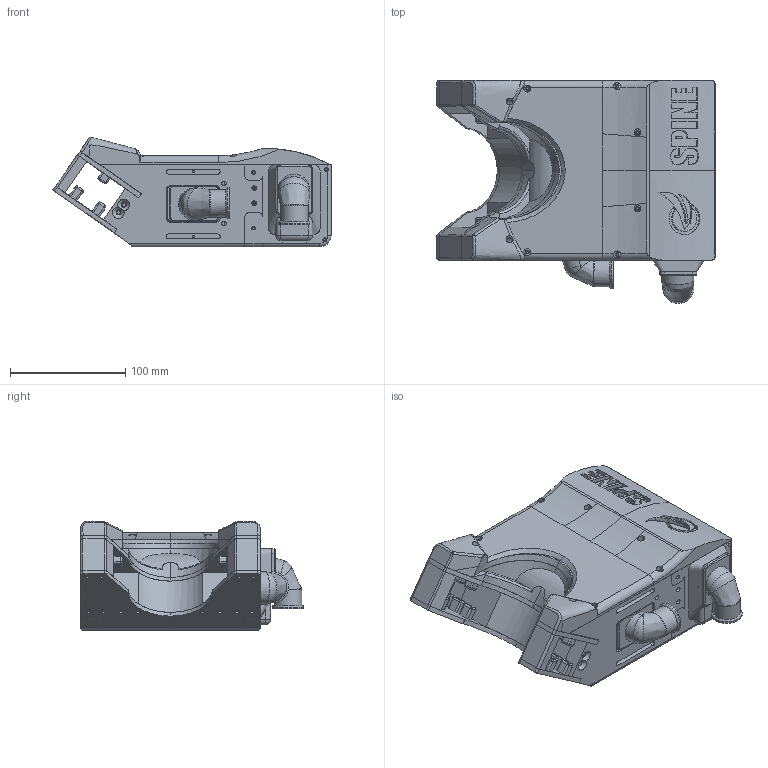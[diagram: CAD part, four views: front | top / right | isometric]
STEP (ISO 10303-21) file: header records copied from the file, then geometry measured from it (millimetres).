
FILE_DESCRIPTION(/* description */ (''),/* implementation_level */ '2;1');
FILE_NAME(/* name */ 'D:/Dropbox/Faradaymotion/Design/Spine_1_1/R/Step/Faraday Spine R1_1.stp',/* time_stamp */ '2016-03-14T21:47:38+01:00',/* author */ (''),/* organization */ (''),/* preprocessor_version */ 'ST-DEVELOPER v15.2',/* originating_system */ 'Autodesk Translator Framework v2.0.0.5431',/* authorisation */ '');
FILE_SCHEMA (('AUTOMOTIVE_DESIGN { 1 0 10303 214 3 1 1 }'));
Products named in the file (1): Faraday Spine R1_1
Bounding box: 241.62 x 193.65 x 95.04 mm (x, y, z)
Volume: 1131633.5 mm3; surface area: 477694.4 mm2
Topology: 17 solids, 20 shells, 1862 faces, 5131 edges, 3305 vertices
Faces by surface type: plane 831, cylinder 657, bspline 209, sphere 73, torus 70, cone 22
Full cylindrical faces by diameter (mm): 2 x103, 3 x4, 3.071 x2, 3.2 x38, 3.321 x2, 3.407 x2, 4 x8, 6 x14, 7.2 x9, 19 x2, 20 x2, 24 x7, 27 x2, 29 x4
Entity records: 91353 total; most frequent: CARTESIAN_POINT 45937, ORIENTED_EDGE 9528, DIRECTION 8842, EDGE_CURVE 4762, VERTEX_POINT 3202, AXIS2_PLACEMENT_3D 3125, LINE 2592, VECTOR 2592
